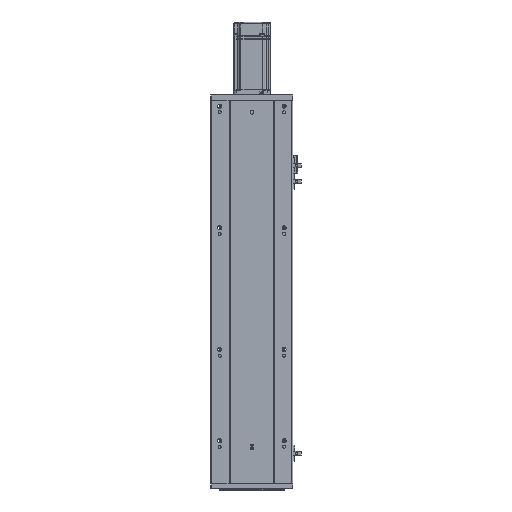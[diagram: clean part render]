
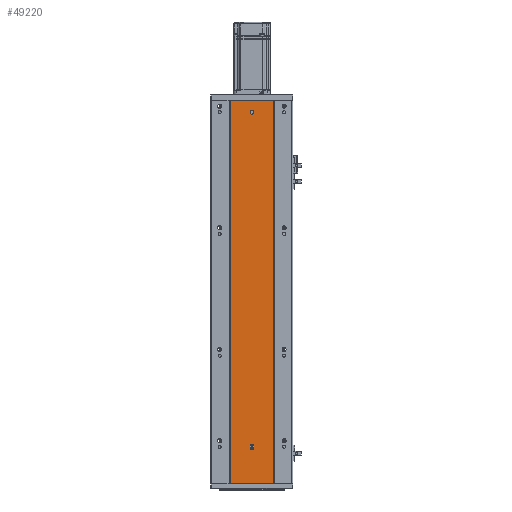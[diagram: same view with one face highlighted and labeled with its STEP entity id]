
A CAD part, front view. The second image highlights one B-rep face of the part: STEP entity #49220.
In plain terms, the highlighted planar face has unit normal (0, -1, 0).
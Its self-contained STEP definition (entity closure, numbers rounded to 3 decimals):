
#204 = FACE_OUTER_BOUND ( 'NONE', #37854, .T. ) ;
#336 = DIRECTION ( 'NONE',  ( 1., 0., 0. ) ) ;
#688 = VERTEX_POINT ( 'NONE', #56431 ) ;
#938 = VECTOR ( 'NONE', #49172, 1000. ) ;
#1127 = CARTESIAN_POINT ( 'NONE',  ( 137.505, 78.746, 62.5 ) ) ;
#1621 = ORIENTED_EDGE ( 'NONE', *, *, #25454, .F. ) ;
#3069 = CARTESIAN_POINT ( 'NONE',  ( 134.505, 78.746, 62.5 ) ) ;
#4429 = VECTOR ( 'NONE', #64895, 1000. ) ;
#4735 = LINE ( 'NONE', #35468, #54553 ) ;
#4795 = CARTESIAN_POINT ( 'NONE',  ( 137.505, 78.746, 62.5 ) ) ;
#5509 = VERTEX_POINT ( 'NONE', #5773 ) ;
#5773 = CARTESIAN_POINT ( 'NONE',  ( 131.505, 78.746, 62.5 ) ) ;
#6279 = DIRECTION ( 'NONE',  ( 0., -1., 0. ) ) ;
#6636 = CIRCLE ( 'NONE', #64578, 3. ) ;
#8247 = DIRECTION ( 'NONE',  ( 1., 0., 0. ) ) ;
#8897 = VECTOR ( 'NONE', #15551, 1000. ) ;
#9008 = VECTOR ( 'NONE', #9380, 1000. ) ;
#9380 = DIRECTION ( 'NONE',  ( -1., 0., 0. ) ) ;
#11578 = CARTESIAN_POINT ( 'NONE',  ( 134.505, 78.746, 614. ) ) ;
#12274 = CARTESIAN_POINT ( 'NONE',  ( 99.005, 78.746, 631. ) ) ;
#13940 = DIRECTION ( 'NONE',  ( 0., -1., 0. ) ) ;
#15415 = ORIENTED_EDGE ( 'NONE', *, *, #35092, .T. ) ;
#15551 = DIRECTION ( 'NONE',  ( 0., 0., 1. ) ) ;
#16163 = DIRECTION ( 'NONE',  ( 1., 0., 0. ) ) ;
#16219 = DIRECTION ( 'NONE',  ( -1., 0., 0. ) ) ;
#16999 = LINE ( 'NONE', #54353, #938 ) ;
#18944 = VERTEX_POINT ( 'NONE', #1127 ) ;
#20054 = EDGE_LOOP ( 'NONE', ( #65308, #1621, #24790, #30494 ) ) ;
#20942 = CIRCLE ( 'NONE', #54623, 3. ) ;
#21618 = CARTESIAN_POINT ( 'NONE',  ( 170.005, 78.746, 0. ) ) ;
#22441 = VERTEX_POINT ( 'NONE', #21618 ) ;
#24790 = ORIENTED_EDGE ( 'NONE', *, *, #34647, .F. ) ;
#24856 = EDGE_CURVE ( 'NONE', #18944, #5509, #28986, .T. ) ;
#25454 = EDGE_CURVE ( 'NONE', #31078, #18944, #63562, .T. ) ;
#27816 = PLANE ( 'NONE',  #63139 ) ;
#28986 = CIRCLE ( 'NONE', #52355, 3. ) ;
#29296 = LINE ( 'NONE', #50031, #4429 ) ;
#29474 = CIRCLE ( 'NONE', #37540, 3. ) ;
#29752 = CARTESIAN_POINT ( 'NONE',  ( 0., 78.746, 631. ) ) ;
#30494 = ORIENTED_EDGE ( 'NONE', *, *, #63680, .F. ) ;
#31078 = VERTEX_POINT ( 'NONE', #58232 ) ;
#31946 = DIRECTION ( 'NONE',  ( 0., -1., 0. ) ) ;
#32983 = ORIENTED_EDGE ( 'NONE', *, *, #56131, .T. ) ;
#33419 = CARTESIAN_POINT ( 'NONE',  ( 0., 78.746, 631. ) ) ;
#34647 = EDGE_CURVE ( 'NONE', #58148, #31078, #6636, .T. ) ;
#34728 = CARTESIAN_POINT ( 'NONE',  ( 134.505, 78.746, 59.5 ) ) ;
#35092 = EDGE_CURVE ( 'NONE', #688, #64685, #63664, .T. ) ;
#35468 = CARTESIAN_POINT ( 'NONE',  ( 99.005, 78.746, 631. ) ) ;
#37540 = AXIS2_PLACEMENT_3D ( 'NONE', #62806, #31946, #336 ) ;
#37854 = EDGE_LOOP ( 'NONE', ( #48419, #44960, #15415, #32983 ) ) ;
#38747 = ORIENTED_EDGE ( 'NONE', *, *, #56847, .F. ) ;
#39517 = FACE_BOUND ( 'NONE', #20054, .T. ) ;
#40218 = VERTEX_POINT ( 'NONE', #11578 ) ;
#41080 = CARTESIAN_POINT ( 'NONE',  ( 0., 78.746, 0. ) ) ;
#41546 = ORIENTED_EDGE ( 'NONE', *, *, #42428, .F. ) ;
#42428 = EDGE_CURVE ( 'NONE', #40218, #61865, #20942, .T. ) ;
#42914 = DIRECTION ( 'NONE',  ( 1., 0., 0. ) ) ;
#44661 = CARTESIAN_POINT ( 'NONE',  ( 134.505, 78.746, 608. ) ) ;
#44960 = ORIENTED_EDGE ( 'NONE', *, *, #46830, .F. ) ;
#46830 = EDGE_CURVE ( 'NONE', #688, #22441, #29296, .T. ) ;
#48207 = CARTESIAN_POINT ( 'NONE',  ( 131.505, 78.746, 59.5 ) ) ;
#48419 = ORIENTED_EDGE ( 'NONE', *, *, #63511, .F. ) ;
#49172 = DIRECTION ( 'NONE',  ( 0., 0., -1. ) ) ;
#49220 = ADVANCED_FACE ( 'NONE', ( #39517, #59745, #204 ), #27816, .T. ) ;
#50031 = CARTESIAN_POINT ( 'NONE',  ( 170.005, 78.746, 631. ) ) ;
#50292 = DIRECTION ( 'NONE',  ( 1., 0., 0. ) ) ;
#52309 = CARTESIAN_POINT ( 'NONE',  ( 134.505, 78.746, 611. ) ) ;
#52355 = AXIS2_PLACEMENT_3D ( 'NONE', #3069, #54501, #8247 ) ;
#52367 = LINE ( 'NONE', #41080, #66047 ) ;
#52453 = VERTEX_POINT ( 'NONE', #59925 ) ;
#54353 = CARTESIAN_POINT ( 'NONE',  ( 131.505, 78.746, 62.5 ) ) ;
#54501 = DIRECTION ( 'NONE',  ( 0., -1., 0. ) ) ;
#54553 = VECTOR ( 'NONE', #56201, 1000. ) ;
#54623 = AXIS2_PLACEMENT_3D ( 'NONE', #52309, #6279, #16163 ) ;
#56131 = EDGE_CURVE ( 'NONE', #64685, #52453, #4735, .T. ) ;
#56201 = DIRECTION ( 'NONE',  ( 0., 0., -1. ) ) ;
#56431 = CARTESIAN_POINT ( 'NONE',  ( 170.005, 78.746, 631. ) ) ;
#56847 = EDGE_CURVE ( 'NONE', #61865, #40218, #29474, .T. ) ;
#57043 = EDGE_LOOP ( 'NONE', ( #38747, #41546 ) ) ;
#58148 = VERTEX_POINT ( 'NONE', #48207 ) ;
#58232 = CARTESIAN_POINT ( 'NONE',  ( 137.505, 78.746, 59.5 ) ) ;
#59745 = FACE_BOUND ( 'NONE', #57043, .T. ) ;
#59925 = CARTESIAN_POINT ( 'NONE',  ( 99.005, 78.746, 0. ) ) ;
#61865 = VERTEX_POINT ( 'NONE', #44661 ) ;
#62806 = CARTESIAN_POINT ( 'NONE',  ( 134.505, 78.746, 611. ) ) ;
#63139 = AXIS2_PLACEMENT_3D ( 'NONE', #33419, #63417, #42914 ) ;
#63417 = DIRECTION ( 'NONE',  ( 0., -1., 0. ) ) ;
#63511 = EDGE_CURVE ( 'NONE', #22441, #52453, #52367, .T. ) ;
#63562 = LINE ( 'NONE', #4795, #8897 ) ;
#63664 = LINE ( 'NONE', #29752, #9008 ) ;
#63680 = EDGE_CURVE ( 'NONE', #5509, #58148, #16999, .T. ) ;
#64578 = AXIS2_PLACEMENT_3D ( 'NONE', #34728, #13940, #50292 ) ;
#64685 = VERTEX_POINT ( 'NONE', #12274 ) ;
#64895 = DIRECTION ( 'NONE',  ( 0., 0., -1. ) ) ;
#65308 = ORIENTED_EDGE ( 'NONE', *, *, #24856, .F. ) ;
#66047 = VECTOR ( 'NONE', #16219, 1000. ) ;
